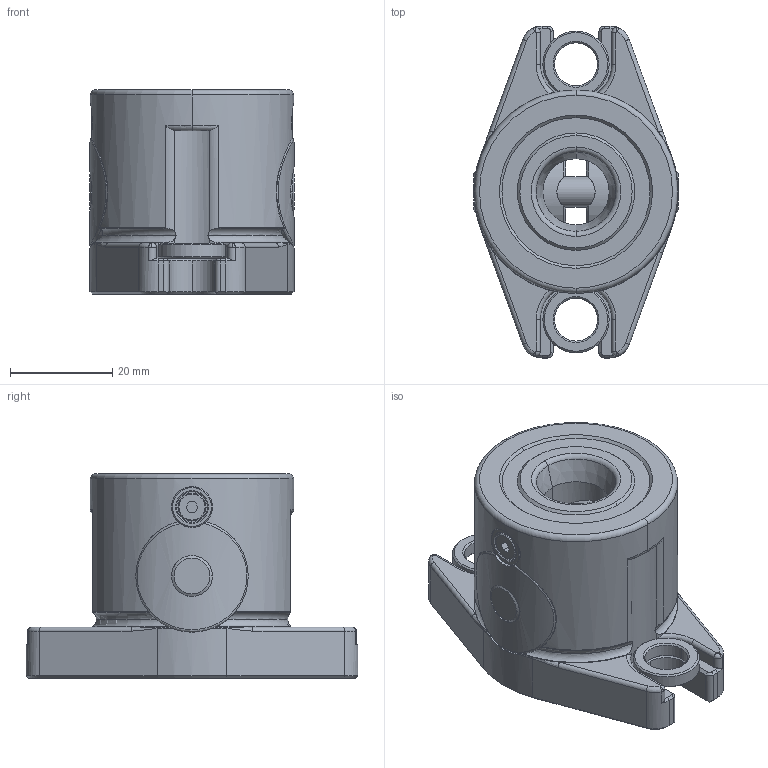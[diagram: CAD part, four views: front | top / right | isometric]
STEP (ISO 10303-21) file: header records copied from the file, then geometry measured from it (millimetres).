
FILE_DESCRIPTION (( 'STEP AP203' ), '1' );
FILE_NAME ('cp150-08040.STEP', '2021-10-25T23:52:17', ( '' ), ( '' ), 'SwSTEP 2.0', 'SolidWorks 2020', '' );
FILE_SCHEMA (( 'CONFIG_CONTROL_DESIGN' ));
Length unit declared in the file: millimetre
Products named in the file (7): cp150-08040; cp150-08040_06; cp150-08040_02; cp150-08040_01; cp150-08040_04; cp150-08040_05; cp150-08040_03
Assembly tree (6 placements, depth 2):
  cp150-08040
    cp150-08040_01
    cp150-08040_02
    cp150-08040_03
    cp150-08040_04
    cp150-08040_05
    cp150-08040_06
Bounding box: 40 x 65 x 40 mm (x, y, z)
Volume: 48299.5 mm3; surface area: 17931.5 mm2
Topology: 6 solids, 6 shells, 365 faces, 867 edges, 531 vertices
Faces by surface type: cylinder 110, plane 103, cone 92, torus 52, bspline 8
Entity records: 13677 total; most frequent: CARTESIAN_POINT 4490, DIRECTION 1850, ORIENTED_EDGE 1734, EDGE_CURVE 867, AXIS2_PLACEMENT_3D 751, VERTEX_POINT 531, EDGE_LOOP 396, CIRCLE 385
